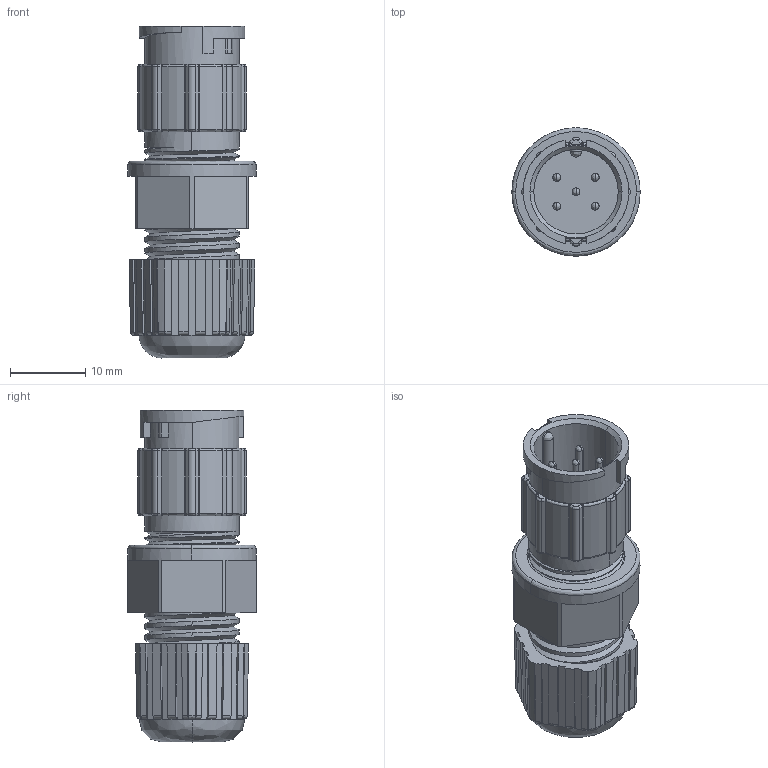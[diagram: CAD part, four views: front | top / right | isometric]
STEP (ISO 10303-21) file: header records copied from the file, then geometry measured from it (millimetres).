
FILE_DESCRIPTION (( 'STEP AP203' ), '1' );
FILE_NAME ('868-005-103KIT.STEP', '2025-12-17T18:14:17', ( '' ), ( '' ), 'SwSTEP 2.0', 'SolidWorks 2020', '' );
FILE_SCHEMA (( 'CONFIG_CONTROL_DESIGN' ));
Length unit declared in the file: millimetre
Products named in the file (1): 868-005-103KIT
Bounding box: 17 x 17 x 44 mm (x, y, z)
Volume: 4686.2 mm3; surface area: 5652.2 mm2
Topology: 1 solids, 1 shells, 617 faces, 1573 edges, 959 vertices
Faces by surface type: cylinder 229, plane 190, bspline 144, cone 54
Entity records: 31827 total; most frequent: CARTESIAN_POINT 18602, ORIENTED_EDGE 3104, DIRECTION 2230, EDGE_CURVE 1552, VERTEX_POINT 959, AXIS2_PLACEMENT_3D 829, EDGE_LOOP 643, ADVANCED_FACE 617
